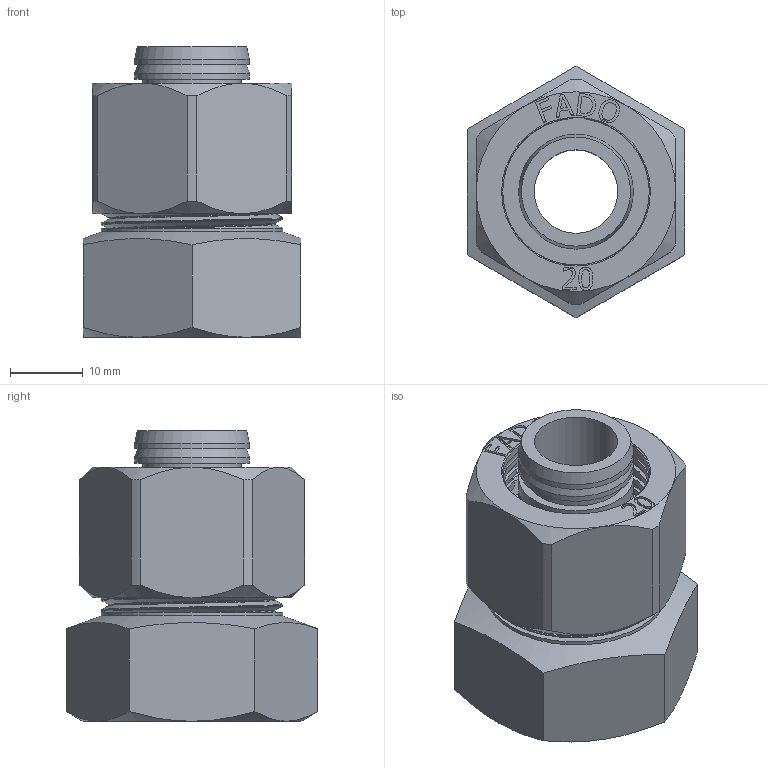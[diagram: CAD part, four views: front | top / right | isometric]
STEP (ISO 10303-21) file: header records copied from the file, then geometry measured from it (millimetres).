
FILE_DESCRIPTION(/* description */ (''),/* implementation_level */ '2;1');
FILE_NAME(/* name */ 'C:\Users\Doom\Desktop\Фадотех\Обжим\RFM14 20x0.75F 30.03.2020\RFM14 20x0.75F 30.03.2020.stp',/* time_stamp */ '2022-06-01T20:55:40+03:00',/* author */ ('Doom'),/* organization */ (''),/* preprocessor_version */ 'ST-DEVELOPER v18',/* originating_system */ 'Autodesk Inventor 2020',/* authorisation */ '');
FILE_SCHEMA (('AUTOMOTIVE_DESIGN { 1 0 10303 214 3 1 1 }'));
Length unit declared in the file: millimetre
Products named in the file (5): RFM14 20x0.75F 30.03.2020; RFM13 20x0.5F 30.03.2020; FADO MC Nut-20 15.02.2020; FADO MC Socket-20 15.02.2020; Olive 20 15.02.2020
Assembly tree (4 placements, depth 2):
  RFM14 20x0.75F 30.03.2020
    RFM13 20x0.5F 30.03.2020
    FADO MC Nut-20 15.02.2020
    FADO MC Socket-20 15.02.2020
    Olive 20 15.02.2020
Bounding box: 30 x 34.64 x 40 mm (x, y, z)
Volume: 13250.3 mm3; surface area: 20489.4 mm2
Topology: 7 solids, 7 shells, 511 faces, 1395 edges, 935 vertices
Faces by surface type: bspline 258, plane 136, cylinder 82, cone 33, torus 2
Full cylindrical faces by diameter (mm): 11.5 x1, 13.531 x2, 14.5 x1, 15.802 x5, 17.391 x1, 17.5 x1, 18 x1, 20.5 x1, 22.776 x10, 23 x1, 23.75 x6, 24.1 x1, 25 x8, 26.44 x2
Entity records: 31904 total; most frequent: CARTESIAN_POINT 20574, ORIENTED_EDGE 2774, DIRECTION 1540, EDGE_CURVE 1387, VERTEX_POINT 931, B_SPLINE_CURVE_WITH_KNOTS 585, EDGE_LOOP 564, AXIS2_PLACEMENT_3D 522
